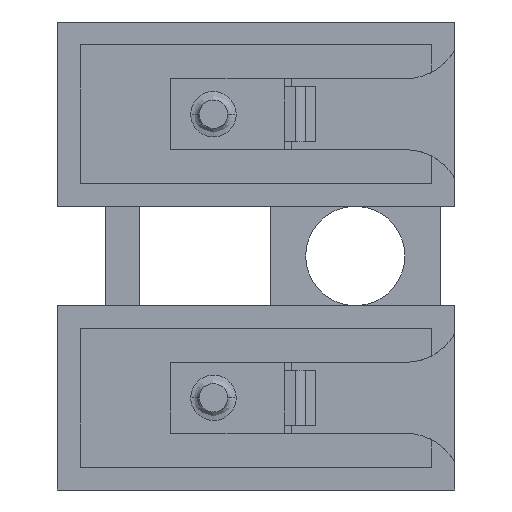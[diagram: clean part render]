
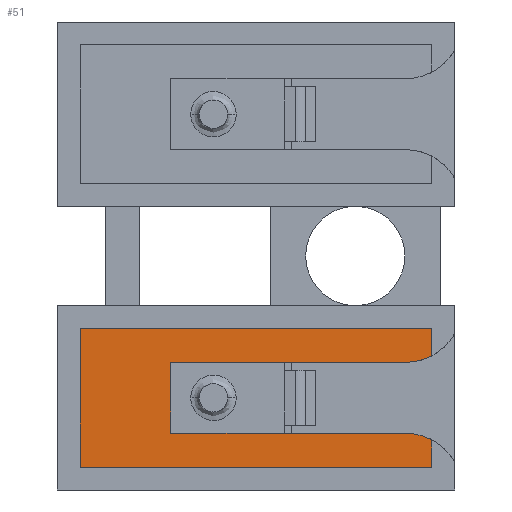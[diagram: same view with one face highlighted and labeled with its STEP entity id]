
A CAD part, front view. The second image highlights one B-rep face of the part: STEP entity #51.
In plain terms, the highlighted planar face has unit normal (0, -1, 0).
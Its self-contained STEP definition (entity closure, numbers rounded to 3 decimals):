
#51 = ADVANCED_FACE ( 'NONE', ( #7167 ), #2500, .T. ) ;
#71 = EDGE_CURVE ( 'NONE', #3441, #2491, #1716, .T. ) ;
#383 = CARTESIAN_POINT ( 'NONE',  ( -3., 1.4, -10.8 ) ) ;
#505 = EDGE_CURVE ( 'NONE', #961, #8586, #750, .T. ) ;
#519 = LINE ( 'NONE', #609, #6817 ) ;
#556 = CARTESIAN_POINT ( 'NONE',  ( 6.2, 1.4, -12. ) ) ;
#606 = CARTESIAN_POINT ( 'NONE',  ( 5.264, 1.4, -16.5 ) ) ;
#609 = CARTESIAN_POINT ( 'NONE',  ( 6.2, 1.4, -10.8 ) ) ;
#630 = CARTESIAN_POINT ( 'NONE',  ( -3., 1.4, -12. ) ) ;
#750 = LINE ( 'NONE', #1995, #8377 ) ;
#812 = CIRCLE ( 'NONE', #5936, 2. ) ;
#951 = CIRCLE ( 'NONE', #4682, 2. ) ;
#961 = VERTEX_POINT ( 'NONE', #8063 ) ;
#1075 = DIRECTION ( 'NONE',  ( 1., 0., 0. ) ) ;
#1078 = DIRECTION ( 'NONE',  ( 0., -1., 0. ) ) ;
#1141 = VECTOR ( 'NONE', #3037, 1000. ) ;
#1340 = DIRECTION ( 'NONE',  ( 1., 0., 0. ) ) ;
#1448 = CARTESIAN_POINT ( 'NONE',  ( -6.2, 1.4, -10.8 ) ) ;
#1463 = EDGE_CURVE ( 'NONE', #8193, #7876, #2995, .T. ) ;
#1467 = DIRECTION ( 'NONE',  ( 0., -1., 0. ) ) ;
#1573 = EDGE_LOOP ( 'NONE', ( #5178, #4747, #7099, #6217, #5368, #4222, #6654, #4254, #2650, #2640 ) ) ;
#1716 = LINE ( 'NONE', #556, #5813 ) ;
#1856 = CARTESIAN_POINT ( 'NONE',  ( 6.2, 1.4, -15.7 ) ) ;
#1986 = DIRECTION ( 'NONE',  ( 0., 0., 1. ) ) ;
#1995 = CARTESIAN_POINT ( 'NONE',  ( 6.2, 1.4, -10.8 ) ) ;
#2068 = VERTEX_POINT ( 'NONE', #7498 ) ;
#2175 = CARTESIAN_POINT ( 'NONE',  ( -6.2, 1.4, -15.7 ) ) ;
#2300 = CARTESIAN_POINT ( 'NONE',  ( 6.2, 1.4, -14.5 ) ) ;
#2491 = VERTEX_POINT ( 'NONE', #6431 ) ;
#2500 = PLANE ( 'NONE',  #7754 ) ;
#2640 = ORIENTED_EDGE ( 'NONE', *, *, #505, .T. ) ;
#2650 = ORIENTED_EDGE ( 'NONE', *, *, #3845, .T. ) ;
#2891 = CARTESIAN_POINT ( 'NONE',  ( -3., 1.4, -14.5 ) ) ;
#2995 = LINE ( 'NONE', #2300, #1141 ) ;
#3017 = CARTESIAN_POINT ( 'NONE',  ( 6.2, 1.4, -15.7 ) ) ;
#3037 = DIRECTION ( 'NONE',  ( -1., 0., 0. ) ) ;
#3057 = EDGE_CURVE ( 'NONE', #2491, #2068, #812, .T. ) ;
#3291 = CARTESIAN_POINT ( 'NONE',  ( 6.2, 1.4, -15.7 ) ) ;
#3441 = VERTEX_POINT ( 'NONE', #630 ) ;
#3593 = CARTESIAN_POINT ( 'NONE',  ( 6.2, 1.4, -14.733 ) ) ;
#3707 = DIRECTION ( 'NONE',  ( 0., -1., 0. ) ) ;
#3845 = EDGE_CURVE ( 'NONE', #2068, #961, #6888, .T. ) ;
#4121 = DIRECTION ( 'NONE',  ( 0., 0., -1. ) ) ;
#4203 = EDGE_CURVE ( 'NONE', #7379, #8024, #4723, .T. ) ;
#4222 = ORIENTED_EDGE ( 'NONE', *, *, #4262, .T. ) ;
#4254 = ORIENTED_EDGE ( 'NONE', *, *, #3057, .T. ) ;
#4262 = EDGE_CURVE ( 'NONE', #7876, #3441, #6121, .T. ) ;
#4447 = EDGE_CURVE ( 'NONE', #6651, #8193, #951, .T. ) ;
#4680 = DIRECTION ( 'NONE',  ( -1., 0., 0. ) ) ;
#4682 = AXIS2_PLACEMENT_3D ( 'NONE', #606, #1078, #7811 ) ;
#4723 = LINE ( 'NONE', #3291, #7796 ) ;
#4735 = VECTOR ( 'NONE', #4121, 1000. ) ;
#4747 = ORIENTED_EDGE ( 'NONE', *, *, #4203, .T. ) ;
#4885 = CARTESIAN_POINT ( 'NONE',  ( -6.2, 1.4, -15.7 ) ) ;
#5159 = VECTOR ( 'NONE', #7505, 1000. ) ;
#5178 = ORIENTED_EDGE ( 'NONE', *, *, #7313, .T. ) ;
#5188 = DIRECTION ( 'NONE',  ( 0., 0., 1. ) ) ;
#5368 = ORIENTED_EDGE ( 'NONE', *, *, #1463, .T. ) ;
#5426 = CARTESIAN_POINT ( 'NONE',  ( 5.264, 1.4, -10. ) ) ;
#5430 = VECTOR ( 'NONE', #5188, 1000. ) ;
#5550 = LINE ( 'NONE', #4885, #4735 ) ;
#5813 = VECTOR ( 'NONE', #1075, 1000. ) ;
#5901 = DIRECTION ( 'NONE',  ( 0., 0., 1. ) ) ;
#5936 = AXIS2_PLACEMENT_3D ( 'NONE', #5426, #1467, #1986 ) ;
#6109 = CARTESIAN_POINT ( 'NONE',  ( 5.264, 1.4, -14.5 ) ) ;
#6121 = LINE ( 'NONE', #383, #5159 ) ;
#6217 = ORIENTED_EDGE ( 'NONE', *, *, #4447, .T. ) ;
#6408 = DIRECTION ( 'NONE',  ( 0., 0., -1. ) ) ;
#6431 = CARTESIAN_POINT ( 'NONE',  ( 5.264, 1.4, -12. ) ) ;
#6651 = VERTEX_POINT ( 'NONE', #3593 ) ;
#6654 = ORIENTED_EDGE ( 'NONE', *, *, #71, .T. ) ;
#6817 = VECTOR ( 'NONE', #5901, 1000. ) ;
#6888 = LINE ( 'NONE', #3017, #5430 ) ;
#7036 = EDGE_CURVE ( 'NONE', #8024, #6651, #519, .T. ) ;
#7099 = ORIENTED_EDGE ( 'NONE', *, *, #7036, .T. ) ;
#7167 = FACE_OUTER_BOUND ( 'NONE', #1573, .T. ) ;
#7313 = EDGE_CURVE ( 'NONE', #8586, #7379, #5550, .T. ) ;
#7379 = VERTEX_POINT ( 'NONE', #2175 ) ;
#7498 = CARTESIAN_POINT ( 'NONE',  ( 6.2, 1.4, -11.767 ) ) ;
#7505 = DIRECTION ( 'NONE',  ( 0., 0., 1. ) ) ;
#7754 = AXIS2_PLACEMENT_3D ( 'NONE', #8333, #3707, #6408 ) ;
#7796 = VECTOR ( 'NONE', #1340, 1000. ) ;
#7811 = DIRECTION ( 'NONE',  ( 0., 0., 1. ) ) ;
#7876 = VERTEX_POINT ( 'NONE', #2891 ) ;
#8024 = VERTEX_POINT ( 'NONE', #1856 ) ;
#8063 = CARTESIAN_POINT ( 'NONE',  ( 6.2, 1.4, -10.8 ) ) ;
#8193 = VERTEX_POINT ( 'NONE', #6109 ) ;
#8333 = CARTESIAN_POINT ( 'NONE',  ( 6.2, 1.4, -10.8 ) ) ;
#8377 = VECTOR ( 'NONE', #4680, 1000. ) ;
#8586 = VERTEX_POINT ( 'NONE', #1448 ) ;
